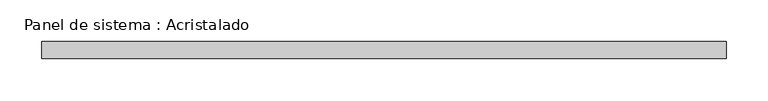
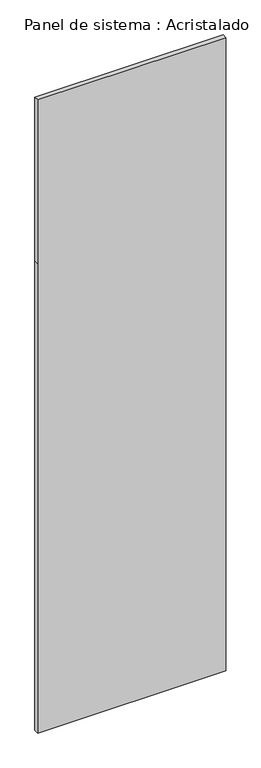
"""IFC4 building model written with IfcOpenShell, lengths in millimetres: plate geometry, Panel de sistema : Acristalado."""

from ifc_helpers import new_model, si_unit, frame, origin, place, context, project, spatial, polyline, outline, extrude, source, transform, mapped, element, save


def panel_de_sistema_acristalado_907720ef(model_context):
    return source(origin(), model_context, "Body", "SweptSolid", [
        extrude(outline(polyline([(0.0, -407.4694578), (0.0, 407.4694578), (2150.0, 407.4694578), (2900.0, 407.4694578), (2900.0, -407.4694578), (2150.0, -407.4694578), (0.0, -407.4694578)])), frame((0.0, -10.0, 0.0), z_axis=(0.0, 1.0, 0.0), x_axis=(0.0, 0.0, 1.0)), (0.0, 0.0, 1.0), 20.0),
    ])


if __name__ == "__main__":
    model = new_model("IFC4")
    model_context = context("Model", 3, world=origin())
    ifc_project = project(units=[si_unit("LENGTHUNIT", "METRE", prefix="MILLI")], contexts=[model_context])
    site = spatial("IfcSite", under=ifc_project)
    building = spatial("IfcBuilding", under=site)
    placement = place(None, origin())
    panel_de_sistema_acristalado_shape = panel_de_sistema_acristalado_907720ef(model_context)
    element("IfcPlate", 1, ObjectType="Panel de sistema : Acristalado", at=placement, inside=building, context=model_context, shape_type="MappedRepresentation", body=[
        mapped(panel_de_sistema_acristalado_shape, transform((0.0, 0.0, 0.0), x_axis=(1.0, 0.0, 0.0), y_axis=(0.0, 1.0, 0.0), z_axis=(0.0, 0.0, 1.0))),
    ])
    save(model, "model.ifc")
